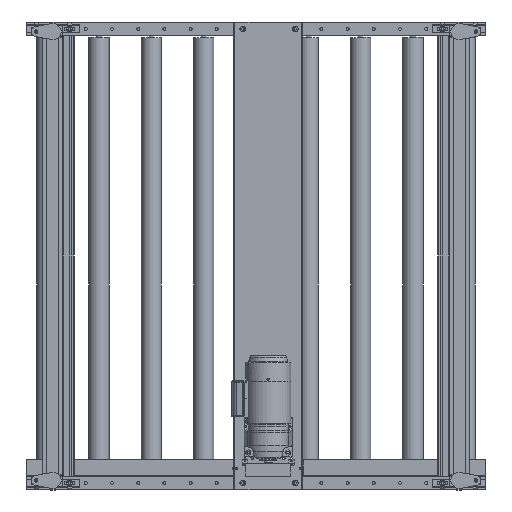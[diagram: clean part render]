
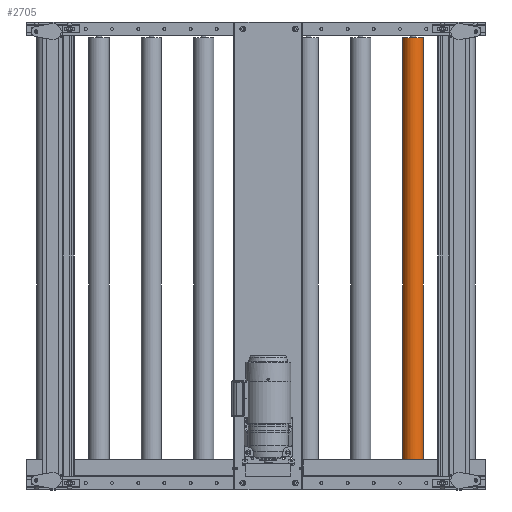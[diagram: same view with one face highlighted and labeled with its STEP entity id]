
A CAD part, front view. The second image highlights one B-rep face of the part: STEP entity #2705.
In plain terms, the highlighted cylindrical face has radius 38.15 mm (diameter 76.3 mm), a full revolution.
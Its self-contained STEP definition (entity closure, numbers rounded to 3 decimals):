
#2705=ADVANCED_FACE('',(#17958),#17957,.T.);
#17957=CYLINDRICAL_SURFACE('',#36531,38.15);
#17958=FACE_OUTER_BOUND('',#36532,.T.);
#36528=CARTESIAN_POINT('',(1456.6,-38.15,-28.5));
#36529=DIRECTION('',(0.,0.,-1.));
#36530=DIRECTION('',(-1.,0.,0.));
#36531=AXIS2_PLACEMENT_3D('',#36528,#36529,#36530);
#36532=EDGE_LOOP('',(#49118,#49119,#49120,#49121,#49122,#49123));
#49118=ORIENTED_EDGE('',*,*,#58280,.F.);
#49119=ORIENTED_EDGE('',*,*,#58281,.T.);
#49120=ORIENTED_EDGE('',*,*,#58275,.T.);
#49121=ORIENTED_EDGE('',*,*,#58276,.T.);
#49122=ORIENTED_EDGE('',*,*,#58281,.F.);
#49123=ORIENTED_EDGE('',*,*,#58279,.F.);
#58275=EDGE_CURVE('',#84192,#84193,#84194,.T.);
#58276=EDGE_CURVE('',#84193,#84192,#84200,.T.);
#58279=EDGE_CURVE('',#84220,#84221,#84222,.T.);
#58280=EDGE_CURVE('',#84221,#84220,#84228,.T.);
#58281=EDGE_CURVE('',#84221,#84192,#84234,.T.);
#84192=VERTEX_POINT('',#117376);
#84193=VERTEX_POINT('',#117377);
#84194=CIRCLE('',#117381,38.15);
#84200=CIRCLE('',#117385,38.15);
#84220=VERTEX_POINT('',#117396);
#84221=VERTEX_POINT('',#117397);
#84222=CIRCLE('',#117401,38.15);
#84228=CIRCLE('',#117405,38.15);
#84234=(BOUNDED_CURVE() B_SPLINE_CURVE(1,(#117406,#117407),.UNSPECIFIED.,.F.,.F.) B_SPLINE_CURVE_WITH_KNOTS((2,2),(0.006,0.994),.UNSPECIFIED.) CURVE() GEOMETRIC_REPRESENTATION_ITEM() RATIONAL_B_SPLINE_CURVE((1.,1.)) REPRESENTATION_ITEM('') );
#117376=CARTESIAN_POINT('',(1418.45,-38.15,-794.5));
#117377=CARTESIAN_POINT('',(1494.75,-38.15,-794.5));
#117378=CARTESIAN_POINT('',(1456.6,-38.15,-794.5));
#117379=DIRECTION('',(0.,0.,1.));
#117380=DIRECTION('',(1.,0.,0.));
#117381=AXIS2_PLACEMENT_3D('',#117378,#117379,#117380);
#117382=CARTESIAN_POINT('',(1456.6,-38.15,-794.5));
#117383=DIRECTION('',(0.,0.,1.));
#117384=DIRECTION('',(1.,0.,0.));
#117385=AXIS2_PLACEMENT_3D('',#117382,#117383,#117384);
#117396=CARTESIAN_POINT('',(1494.75,-38.15,794.5));
#117397=CARTESIAN_POINT('',(1418.45,-38.15,794.5));
#117398=CARTESIAN_POINT('',(1456.6,-38.15,794.5));
#117399=DIRECTION('',(0.,0.,1.));
#117400=DIRECTION('',(1.,0.,0.));
#117401=AXIS2_PLACEMENT_3D('',#117398,#117399,#117400);
#117402=CARTESIAN_POINT('',(1456.6,-38.15,794.5));
#117403=DIRECTION('',(0.,0.,1.));
#117404=DIRECTION('',(1.,0.,0.));
#117405=AXIS2_PLACEMENT_3D('',#117402,#117403,#117404);
#117406=CARTESIAN_POINT('',(1418.45,-38.15,794.5));
#117407=CARTESIAN_POINT('',(1418.45,-38.15,-794.5));
